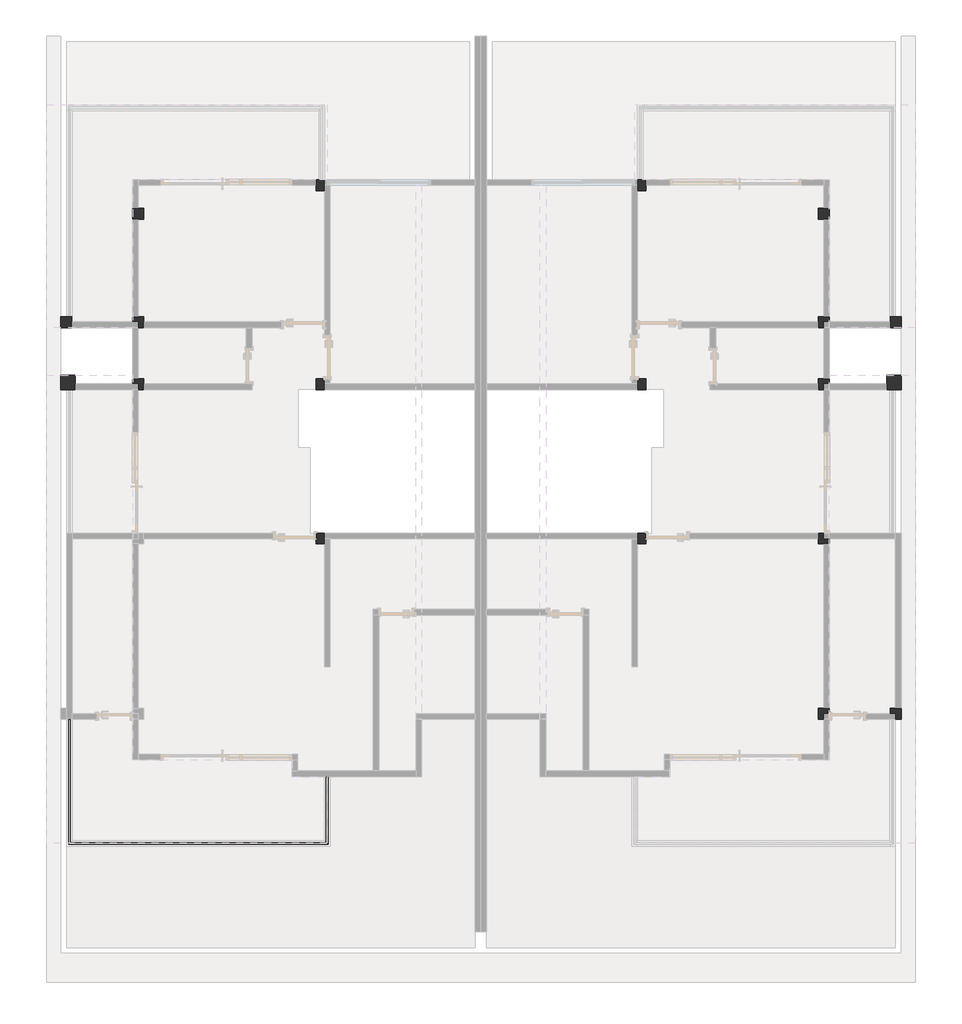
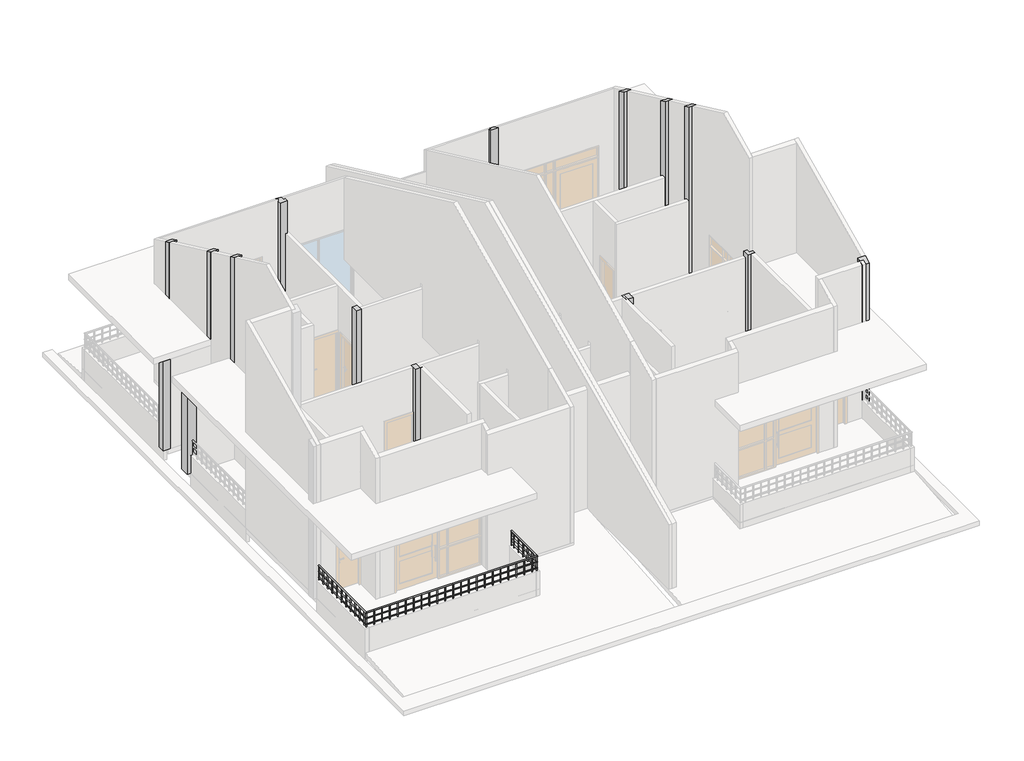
# One storey, part 3 of 6: 23 columns, 1 railing.
"""IFC4 building model written with IfcOpenShell, lengths in millimetres."""

import ifcopenshell
import ifcopenshell.guid

model = None  # the IFC model being written
_history = None  # IfcOwnerHistory: only IFC2X3 demands one
_inside = {}  # id of a spatial element -> (the spatial element, [elements in it])
_under = {}  # id of a project, library or spatial element -> (it, [spatial elements below it])
_declared = {}  # id of a project -> (the project, [libraries it declares])
_typed = {}  # id of a type object -> (the type object, [elements of that type])
_made_of = {}  # id of a material, layer set ... -> (it, [elements and type objects made of it])


def new_model(schema):
    """Start an empty IFC model of exactly this schema.

    Asked for "IFC4X3", IfcOpenShell would pick the latest addendum, in which some entities
    have other attributes; the version numbers below select the first issue.
    IFC2X3 requires an IfcOwnerHistory on every rooted entity: one is made here for all.
    """
    global model, _history
    if schema == "IFC4X3":
        model = ifcopenshell.file(schema_version=(4, 3, 0, 0))
    else:
        model = ifcopenshell.file(schema=schema)
    _inside.clear()
    _under.clear()
    _declared.clear()
    _typed.clear()
    _made_of.clear()
    _history = None
    if model.schema == "IFC2X3":
        org = make("IfcOrganization", Name="unknown")
        user = make(
            "IfcPersonAndOrganization",
            ThePerson=make("IfcPerson", FamilyName="unknown"),
            TheOrganization=org,
        )
        app = make(
            "IfcApplication",
            ApplicationDeveloper=org,
            Version="unknown",
            ApplicationFullName="unknown",
            ApplicationIdentifier="unknown",
        )
        _history = make(
            "IfcOwnerHistory",
            OwningUser=user,
            OwningApplication=app,
            ChangeAction="ADDED",
            CreationDate=0,
        )
    return model


def make(cls, **values):
    """One entity of the class cls with the attributes given. An attribute that is None is left unset."""
    return model.create_entity(
        cls, **{name: value for name, value in values.items() if value is not None}
    )


def rooted(cls, **values):
    """An entity with a GlobalId (a new one), such as an element, a storey or a relation."""
    return make(cls, GlobalId=ifcopenshell.guid.new(), OwnerHistory=_history, **values)


def si_unit(unit_type, name, prefix=None):
    """IfcSIUnit, for example si_unit("LENGTHUNIT", "METRE", prefix="MILLI")."""
    return make("IfcSIUnit", UnitType=unit_type, Prefix=prefix, Name=name)


def assignment(units):
    """IfcUnitAssignment: the units of a project."""
    return None if units is None else make("IfcUnitAssignment", Units=units)


def point(xyz):
    """IfcCartesianPoint."""
    return None if xyz is None else make("IfcCartesianPoint", Coordinates=xyz)


def direction(xyz):
    """IfcDirection."""
    return None if xyz is None else make("IfcDirection", DirectionRatios=xyz)


def frame(location, z_axis=None, x_axis=None):
    """IfcAxis2Placement3D, a coordinate frame: its origin and axes. An axis left out is left unset."""
    return make(
        "IfcAxis2Placement3D",
        Location=point(location),
        Axis=direction(z_axis),
        RefDirection=direction(x_axis),
    )


def frame_2d(location, x_axis=None):
    """IfcAxis2Placement2D, a coordinate frame in the plane: its origin and x axis."""
    return make(
        "IfcAxis2Placement2D", Location=point(location), RefDirection=direction(x_axis)
    )


def origin():
    """The frame at (0, 0, 0) with its axes left unset."""
    return frame((0.0, 0.0, 0.0))


def place(relative_to, where):
    """IfcLocalPlacement: puts the frame where relative to a parent placement (None: the world)."""
    return make(
        "IfcLocalPlacement", PlacementRelTo=relative_to, RelativePlacement=where
    )


def context(
    kind, dimensions, precision=None, world=None, true_north=None, identifier=None
):
    """IfcGeometricRepresentationContext, for example the 3D "Model" context."""
    return make(
        "IfcGeometricRepresentationContext",
        ContextIdentifier=identifier,
        ContextType=kind,
        CoordinateSpaceDimension=dimensions,
        Precision=precision,
        WorldCoordinateSystem=world,
        TrueNorth=true_north,
    )


def project(units=None, contexts=None):
    """IfcProject with its units and contexts."""
    return rooted(
        "IfcProject",
        Name="project",
        RepresentationContexts=contexts,
        UnitsInContext=assignment(units),
    )


def spatial(cls, under=None, at=None, **own):
    """A site, building, storey or space (cls), placed at a placement, below another one or the project."""
    s = rooted(cls, ObjectPlacement=at, **own)
    if under is not None:
        _under.setdefault(under.id(), (under, []))[1].append(s)
    return s


def polyline(points):
    """IfcPolyline through the points."""
    return make("IfcPolyline", Points=[point(p) for p in points])


def circle_curve(where, radius):
    """IfcCircle in the frame where."""
    return make("IfcCircle", Position=where, Radius=radius)


def ellipse_curve(where, semi_axis1, semi_axis2):
    """IfcEllipse in the frame where."""
    return make(
        "IfcEllipse", Position=where, SemiAxis1=semi_axis1, SemiAxis2=semi_axis2
    )


def trimmed(basis, trim1, trim2, sense, master):
    """IfcTrimmedCurve: the piece of a basis curve between two trims."""
    return make(
        "IfcTrimmedCurve",
        BasisCurve=basis,
        Trim1=trim1,
        Trim2=trim2,
        SenseAgreement=sense,
        MasterRepresentation=master,
    )


def segment(curve, same_sense, transition):
    """IfcCompositeCurveSegment."""
    return make(
        "IfcCompositeCurveSegment",
        Transition=transition,
        SameSense=same_sense,
        ParentCurve=curve,
    )


def composite_curve(segments, self_intersect=None):
    """IfcCompositeCurve: segments joined end to end."""
    return make("IfcCompositeCurve", Segments=segments, SelfIntersect=self_intersect)


def outline(outer, holes=None, kind="AREA"):
    """IfcArbitraryClosedProfileDef: a profile drawn as a closed curve; with holes, ...WithVoids."""
    if holes is None:
        return make("IfcArbitraryClosedProfileDef", ProfileType=kind, OuterCurve=outer)
    return make(
        "IfcArbitraryProfileDefWithVoids",
        ProfileType=kind,
        OuterCurve=outer,
        InnerCurves=holes,
    )


def extrude(swept, where, along, depth):
    """IfcExtrudedAreaSolid: the profile swept, set in the frame where, extruded along a direction by depth."""
    return make(
        "IfcExtrudedAreaSolid",
        SweptArea=swept,
        Position=where,
        ExtrudedDirection=direction(along),
        Depth=depth,
    )


def shape(context_of_items, identifier, shape_type, items):
    """IfcShapeRepresentation: the items that make up one representation, for example the "Body"."""
    return make(
        "IfcShapeRepresentation",
        ContextOfItems=context_of_items,
        RepresentationIdentifier=identifier,
        RepresentationType=shape_type,
        Items=items,
    )


def source(mapping_origin, context_of_items, identifier, shape_type, items):
    """IfcRepresentationMap: a shape defined once, which mapped items show again and again."""
    return make(
        "IfcRepresentationMap",
        MappingOrigin=mapping_origin,
        MappedRepresentation=shape(context_of_items, identifier, shape_type, items),
    )


def transform(
    local_origin,
    x_axis=None,
    y_axis=None,
    z_axis=None,
    scale=None,
    scale2=None,
    scale3=None,
    uniform=True,
):
    """IfcCartesianTransformationOperator3D, or its non-uniform kind. x_axis, y_axis, z_axis: its Axis1, 2, 3."""
    if uniform:
        return make(
            "IfcCartesianTransformationOperator3D",
            Axis1=direction(x_axis),
            Axis2=direction(y_axis),
            LocalOrigin=point(local_origin),
            Scale=scale,
            Axis3=direction(z_axis),
        )
    return make(
        "IfcCartesianTransformationOperator3DnonUniform",
        Axis1=direction(x_axis),
        Axis2=direction(y_axis),
        LocalOrigin=point(local_origin),
        Scale=scale,
        Axis3=direction(z_axis),
        Scale2=scale2,
        Scale3=scale3,
    )


def mapped(mapping_source, mapping_target):
    """IfcMappedItem: shows the shape of a source again, moved by a transform."""
    return make(
        "IfcMappedItem", MappingSource=mapping_source, MappingTarget=mapping_target
    )


def made_of(thing, what):
    """Note that an element or type object is made of a material, layer set ...; save() writes the relation."""
    if what is not None:
        _made_of.setdefault(what.id(), (what, []))[1].append(thing)
    return thing


def element(
    cls,
    number,
    at=None,
    inside=None,
    cuts=None,
    type_object=None,
    material=None,
    context=None,
    identifier="Body",
    shape_type=None,
    held_by="IfcProductDefinitionShape",
    body=None,
    shapes=None,
    **own,
):
    """One element of the class cls, such as IfcWall. Its Tag is "e" and its number.

    at: its placement. inside: the storey or other place that contains it. cuts: it is an
    opening in that element (IfcRelVoidsElement). A single representation is given by context,
    identifier, shape_type and body (its items); several are given by shapes. held_by: the class
    of the entity that holds the representations. save() writes the other relations.
    """
    e = rooted(cls, Tag="e%d" % number, ObjectPlacement=at, **own)
    if body is not None:
        shapes = [shape(context, identifier, shape_type, body)]
    if shapes is not None:
        e.Representation = make(held_by, Representations=shapes)
    if inside is not None:
        _inside.setdefault(inside.id(), (inside, []))[1].append(e)
    if cuts is not None:
        rooted(
            "IfcRelVoidsElement", RelatingBuildingElement=cuts, RelatedOpeningElement=e
        )
    if type_object is not None:
        _typed.setdefault(type_object.id(), (type_object, []))[1].append(e)
    return made_of(e, material)


def aggregate(whole, parts):
    """IfcRelAggregates: a whole, such as a stair, and the parts it consists of."""
    return rooted("IfcRelAggregates", RelatingObject=whole, RelatedObjects=parts)


def save(model, path):
    """Write the relations noted so far, then the file.

    IfcRelAggregates (storeys below a building ...), IfcRelContainedInSpatialStructure (elements
    in a storey), IfcRelDefinesByType, IfcRelAssociatesMaterial and IfcRelDeclares: one each for
    every whole, place, type object, material and project.
    """
    for whole, parts in _under.values():
        aggregate(whole, parts)
    for where, things in _inside.values():
        rooted(
            "IfcRelContainedInSpatialStructure",
            RelatedElements=things,
            RelatingStructure=where,
        )
    for kind, things in _typed.values():
        rooted("IfcRelDefinesByType", RelatedObjects=things, RelatingType=kind)
    for what, things in _made_of.values():
        rooted("IfcRelAssociatesMaterial", RelatedObjects=things, RelatingMaterial=what)
    for by, libraries in _declared.values():
        rooted("IfcRelDeclares", RelatingContext=by, RelatedDefinitions=libraries)
    model.write(path)


def plane_surface(at):
    """IfcPlane: the flat surface through the origin of the frame at, square to its z axis."""
    return make("IfcPlane", Position=at)


def cylinder_surface(at, radius):
    """IfcCylindricalSurface: all points at the distance radius from the z axis of the frame at."""
    return make("IfcCylindricalSurface", Position=at, Radius=radius)


def advanced_brep(points, edges, surfaces, faces):
    """IfcAdvancedBrep: a solid bounded by faces that lie on surfaces and meet in shared edges.

    An edge is (start, end): straight between two places in points (the first is 0);
    or (start, end, curve); or (start, end, curve, False) where it runs against its curve.
    A face is (place in surfaces, loops), or (place, loops, False) where it looks against
    its surface's normal. A loop lists edges by number (the first is 1), with a minus sign
    where the edge is run from its end to its start. The first loop is the outer one.
    """
    corners = [point(p) for p in points]
    vertices = [make("IfcVertexPoint", VertexGeometry=c) for c in corners]
    made = []
    for start, end, *more in edges:
        made.append(
            make(
                "IfcEdgeCurve",
                EdgeStart=vertices[start],
                EdgeEnd=vertices[end],
                EdgeGeometry=more[0] if more else make("IfcPolyline", Points=[corners[start], corners[end]]),
                SameSense=more[1] if len(more) > 1 else True,
            )
        )
    hull = []
    for where, loops, *sense in faces:
        bounds = []
        for j, loop in enumerate(loops):
            ring = [make("IfcOrientedEdge", EdgeElement=made[abs(k) - 1], Orientation=k > 0) for k in loop]
            bounds.append(
                make(
                    "IfcFaceOuterBound" if j == 0 else "IfcFaceBound",
                    Bound=make("IfcEdgeLoop", EdgeList=ring),
                    Orientation=True,
                )
            )
        hull.append(make("IfcAdvancedFace", Bounds=bounds, FaceSurface=surfaces[where], SameSense=sense[0] if sense else True))
    return make("IfcAdvancedBrep", Outer=make("IfcClosedShell", CfsFaces=hull))


def z2_a2c7232a(model_context):
    return source(origin(), model_context, "Body", "SweptSolid", [
        extrude(outline(polyline([(115.0, 115.0), (115.0, -115.0), (-115.0, -115.0), (-115.0, 115.0), (115.0, 115.0)])), frame((0.0, 0.0, 3900.0), z_axis=(0.0, 0.0, 1.0), x_axis=(1.0, 0.0, 0.0)), (0.0, 0.0, 1.0), 3750.0),
    ])


model = new_model("IFC4")

# Units and contexts
model_context = context("Model", 3, world=origin())
ifc_project = project(units=[si_unit("LENGTHUNIT", "METRE", prefix="MILLI")], contexts=[model_context])

# Site, building, storey
site = spatial("IfcSite", under=ifc_project)
building = spatial("IfcBuilding", under=site)
storey = spatial("IfcBuildingStorey", under=building, Name="标高 2", Elevation=3900.0)

# Columns
placement = place(None, origin())
element("IfcColumn", 1, ObjectType="混凝土 - 矩形 - 柱 : Z1", at=placement, inside=storey, context=model_context, shape_type="SweptSolid", body=[
    extrude(outline(polyline([(-7384.0293904, 9188.7732284), (-7384.0293904, 8888.7732284), (-7684.0293904, 8888.7732284), (-7684.0293904, 9188.7732284), (-7384.0293904, 9188.7732284)])), frame((0.0, 0.0, 3900.0), z_axis=(0.0, 0.0, 1.0), x_axis=(1.0, 0.0, 0.0)), (0.0, 0.0, 1.0), 3000.0),
])
element("IfcColumn", 2, ObjectType="混凝土 - 矩形 - 柱 : Z1", at=placement, inside=storey, context=model_context, shape_type="SweptSolid", body=[
    extrude(outline(polyline([(9615.9706096, 9188.7732284), (9915.9706096, 9188.7732284), (9915.9706096, 8888.7732284), (9615.9706096, 8888.7732284), (9615.9706096, 9188.7732284)])), frame((0.0, 0.0, 3900.0), z_axis=(0.0, 0.0, 1.0), x_axis=(1.0, 0.0, 0.0)), (0.0, 0.0, 1.0), 3000.0),
])
element("IfcColumn", 3, ObjectType="混凝土 - 矩形 - 柱 : Z2", at=placement, inside=storey, context=model_context, shape_type="SweptSolid", body=[
    extrude(outline(polyline([(1230.9706096, 2103.7732284), (1230.9706096, 1873.7732284), (1000.9706096, 1873.7732284), (1000.9706096, 2103.7732284), (1230.9706096, 2103.7732284)])), frame((0.0, 0.0, 3900.0), z_axis=(0.0, 0.0, 1.0), x_axis=(1.0, 0.0, 0.0)), (0.0, 0.0, 1.0), 3750.0),
])
element("IfcColumn", 4, ObjectType="混凝土 - 矩形 - 柱 : Z2", at=placement, inside=storey, context=model_context, shape_type="SweptSolid", body=[
    extrude(outline(polyline([(-2104.0293904, 5888.7732284), (-2104.0293904, 5658.7732284), (-2334.0293904, 5658.7732284), (-2334.0293904, 5888.7732284), (-2104.0293904, 5888.7732284)])), frame((0.0, 0.0, 3900.0), z_axis=(0.0, 0.0, 1.0), x_axis=(1.0, 0.0, 0.0)), (0.0, 0.0, 1.0), 3600.0),
])
element("IfcColumn", 5, ObjectType="混凝土 - 矩形 - 柱 : Z2", at=placement, inside=storey, context=model_context, shape_type="SweptSolid", body=[
    extrude(outline(polyline([(9118.7732284, 3900.0), (8888.7732284, 3900.0), (8888.7732284, 10640.9391892), (9118.7732284, 10533.6884279), (9118.7732284, 3900.0)])), frame((-6184.0293904, 0.0, 0.0), z_axis=(1.0, 0.0, 0.0), x_axis=(0.0, 1.0, 0.0)), (0.0, 0.0, 1.0), 230.0),
])
element("IfcColumn", 6, ObjectType="混凝土 - 矩形 - 柱 : Z2", at=placement, inside=storey, context=model_context, shape_type="SweptSolid", body=[
    extrude(outline(polyline([(-2104.0293904, 9118.7732284), (-2104.0293904, 8888.7732284), (-2334.0293904, 8888.7732284), (-2334.0293904, 9118.7732284), (-2104.0293904, 9118.7732284)])), frame((0.0, 0.0, 3900.0), z_axis=(0.0, 0.0, 1.0), x_axis=(1.0, 0.0, 0.0)), (0.0, 0.0, 1.0), 3600.0),
])
element("IfcColumn", 7, ObjectType="混凝土 - 矩形 - 柱 : Z2", at=placement, inside=storey, context=model_context, shape_type="SweptSolid", body=[
    extrude(outline(polyline([(-2104.0293904, 13288.7732284), (-2104.0293904, 13058.7732284), (-2334.0293904, 13058.7732284), (-2334.0293904, 13288.7732284), (-2104.0293904, 13288.7732284)])), frame((0.0, 0.0, 3900.0), z_axis=(0.0, 0.0, 1.0), x_axis=(1.0, 0.0, 0.0)), (0.0, 0.0, 1.0), 4689.1854934),
])
element("IfcColumn", 8, ObjectType="混凝土 - 矩形 - 柱 : Z2", at=placement, inside=storey, context=model_context, shape_type="SweptSolid", body=[
    extrude(outline(polyline([(1230.9706096, 13288.7732284), (1230.9706096, 13058.7732284), (1000.9706096, 13058.7732284), (1000.9706096, 13288.7732284), (1230.9706096, 13288.7732284)])), frame((0.0, 0.0, 3900.0), z_axis=(0.0, 0.0, 1.0), x_axis=(1.0, 0.0, 0.0)), (0.0, 0.0, 1.0), 3750.0),
])
element("IfcColumn", 9, ObjectType="混凝土 - 矩形 - 柱 : Z2", at=placement, inside=storey, context=model_context, shape_type="SweptSolid", body=[
    extrude(outline(polyline([(12688.7732284, 3900.0), (12458.7732284, 3900.0), (12458.7732284, 8976.2208496), (12688.7732284, 8868.9700883), (12688.7732284, 3900.0)])), frame((-6184.0293904, 0.0, 0.0), z_axis=(1.0, 0.0, 0.0), x_axis=(0.0, 1.0, 0.0)), (0.0, 0.0, 1.0), 230.0),
])
element("IfcColumn", 10, ObjectType="混凝土 - 矩形 - 柱 : Z2", at=placement, inside=storey, context=model_context, shape_type="SweptSolid", body=[
    extrude(outline(polyline([(8185.9706096, 2218.7732284), (8415.9706096, 2218.7732284), (8415.9706096, 1988.7732284), (8185.9706096, 1988.7732284), (8185.9706096, 2218.7732284)])), frame((0.0, 0.0, 3900.0), z_axis=(0.0, 0.0, 1.0), x_axis=(1.0, 0.0, 0.0)), (0.0, 0.0, 1.0), 3750.0),
])
element("IfcColumn", 11, ObjectType="混凝土 - 矩形 - 柱 : Z2", at=placement, inside=storey, context=model_context, shape_type="SweptSolid", body=[
    extrude(outline(polyline([(2218.7732284, 3900.0), (1988.7732284, 3900.0), (1988.7732284, 9008.8623857), (2218.7732284, 9116.1131471), (2218.7732284, 3900.0)])), frame((9685.9706096, 0.0, 0.0), z_axis=(1.0, 0.0, 0.0), x_axis=(0.0, 1.0, 0.0)), (0.0, 0.0, 1.0), 230.0),
])
element("IfcColumn", 12, ObjectType="混凝土 - 矩形 - 柱 : Z2", at=placement, inside=storey, context=model_context, shape_type="SweptSolid", body=[
    extrude(outline(polyline([(8185.9706096, 5888.7732284), (8415.9706096, 5888.7732284), (8415.9706096, 5658.7732284), (8185.9706096, 5658.7732284), (8185.9706096, 5888.7732284)])), frame((0.0, 0.0, 3900.0), z_axis=(0.0, 0.0, 1.0), x_axis=(1.0, 0.0, 0.0)), (0.0, 0.0, 1.0), 3750.0),
])
element("IfcColumn", 13, ObjectType="混凝土 - 矩形 - 柱 : Z2", at=placement, inside=storey, context=model_context, shape_type="SweptSolid", body=[
    extrude(outline(polyline([(4335.9706096, 5888.7732284), (4565.9706096, 5888.7732284), (4565.9706096, 5658.7732284), (4335.9706096, 5658.7732284), (4335.9706096, 5888.7732284)])), frame((0.0, 0.0, 3900.0), z_axis=(0.0, 0.0, 1.0), x_axis=(1.0, 0.0, 0.0)), (0.0, 0.0, 1.0), 3600.0),
])
element("IfcColumn", 14, ObjectType="混凝土 - 矩形 - 柱 : Z2", at=placement, inside=storey, context=model_context, shape_type="SweptSolid", body=[
    extrude(outline(polyline([(9118.7732284, 3900.0), (8888.7732284, 3900.0), (8888.7732284, 10640.9391892), (9118.7732284, 10533.6884279), (9118.7732284, 3900.0)])), frame((8185.9706096, 0.0, 0.0), z_axis=(1.0, 0.0, 0.0), x_axis=(0.0, 1.0, 0.0)), (0.0, 0.0, 1.0), 230.0),
])
element("IfcColumn", 15, ObjectType="混凝土 - 矩形 - 柱 : Z2", at=placement, inside=storey, context=model_context, shape_type="SweptSolid", body=[
    extrude(outline(polyline([(4335.9706096, 9118.7732284), (4565.9706096, 9118.7732284), (4565.9706096, 8888.7732284), (4335.9706096, 8888.7732284), (4335.9706096, 9118.7732284)])), frame((0.0, 0.0, 3900.0), z_axis=(0.0, 0.0, 1.0), x_axis=(1.0, 0.0, 0.0)), (0.0, 0.0, 1.0), 3600.0),
])
element("IfcColumn", 16, ObjectType="混凝土 - 矩形 - 柱 : Z2", at=placement, inside=storey, context=model_context, shape_type="SweptSolid", body=[
    extrude(outline(polyline([(13288.7732284, 3900.0), (13058.7732284, 3900.0), (13058.7732284, 8696.4362547), (13288.7732284, 8589.1854934), (13288.7732284, 3900.0)])), frame((4335.9706096, 0.0, 0.0), z_axis=(1.0, 0.0, 0.0), x_axis=(0.0, 1.0, 0.0)), (0.0, 0.0, 1.0), 230.0),
])
element("IfcColumn", 17, ObjectType="混凝土 - 矩形 - 柱 : Z2", at=placement, inside=storey, context=model_context, shape_type="SweptSolid", body=[
    extrude(outline(polyline([(12688.7732284, 3900.0), (12458.7732284, 3900.0), (12458.7732284, 8976.2208496), (12688.7732284, 8868.9700883), (12688.7732284, 3900.0)])), frame((8185.9706096, 0.0, 0.0), z_axis=(1.0, 0.0, 0.0), x_axis=(0.0, 1.0, 0.0)), (0.0, 0.0, 1.0), 230.0),
])
element("IfcColumn", 18, ObjectType="混凝土 - 矩形 - 柱 : Z2", at=placement, inside=storey, context=model_context, shape_type="SweptSolid", body=[
    extrude(outline(polyline([(10418.7732284, 3900.0), (10188.7732284, 3900.0), (10188.7732284, 10034.7392336), (10418.7732284, 9927.4884723), (10418.7732284, 3900.0)])), frame((-6184.0293904, 0.0, 0.0), z_axis=(1.0, 0.0, 0.0), x_axis=(0.0, 1.0, 0.0)), (0.0, 0.0, 1.0), 230.0),
])
element("IfcColumn", 19, ObjectType="混凝土 - 矩形 - 柱 : Z2", at=placement, inside=storey, context=model_context, shape_type="SweptSolid", body=[
    extrude(outline(polyline([(-7454.0293904, 10418.7732284), (-7454.0293904, 10188.7732284), (-7684.0293904, 10188.7732284), (-7684.0293904, 10418.7732284), (-7454.0293904, 10418.7732284)])), frame((0.0, 0.0, 3900.0), z_axis=(0.0, 0.0, 1.0), x_axis=(1.0, 0.0, 0.0)), (0.0, 0.0, 1.0), 3000.0),
])
element("IfcColumn", 20, ObjectType="混凝土 - 矩形 - 柱 : Z2", at=placement, inside=storey, context=model_context, shape_type="SweptSolid", body=[
    extrude(outline(polyline([(10418.7732284, 3900.0), (10188.7732284, 3900.0), (10188.7732284, 10034.7392336), (10418.7732284, 9927.4884723), (10418.7732284, 3900.0)])), frame((8185.9706096, 0.0, 0.0), z_axis=(1.0, 0.0, 0.0), x_axis=(0.0, 1.0, 0.0)), (0.0, 0.0, 1.0), 230.0),
])
element("IfcColumn", 21, ObjectType="混凝土 - 矩形 - 柱 : Z2", at=placement, inside=storey, context=model_context, shape_type="SweptSolid", body=[
    extrude(outline(polyline([(9685.9706096, 10418.7732284), (9915.9706096, 10418.7732284), (9915.9706096, 10188.7732284), (9685.9706096, 10188.7732284), (9685.9706096, 10418.7732284)])), frame((0.0, 0.0, 3900.0), z_axis=(0.0, 0.0, 1.0), x_axis=(1.0, 0.0, 0.0)), (0.0, 0.0, 1.0), 3000.0),
])
z2_shape = z2_a2c7232a(model_context)
element("IfcColumn", 22, ObjectType="混凝土 - 矩形 - 柱 : Z2", at=placement, inside=storey, context=model_context, shape_type="MappedRepresentation", body=[
    mapped(z2_shape, transform((1115.9706096, 5773.7732284, 0.0), x_axis=(1.0, 0.0, 0.0), y_axis=(0.0, 1.0, 0.0), z_axis=(0.0, 0.0, 1.0))),
])
element("IfcColumn", 23, ObjectType="混凝土 - 矩形 - 柱 : Z2", at=placement, inside=storey, context=model_context, shape_type="MappedRepresentation", body=[
    mapped(z2_shape, transform((1115.9706096, 9003.7732284, 0.0), x_axis=(1.0, 0.0, 0.0), y_axis=(0.0, 1.0, 0.0), z_axis=(0.0, 0.0, 1.0))),
])

# Railing
element("IfcRailing", 24, ObjectType="500 圆管", at=placement, inside=storey, context=model_context, shape_type="SolidModel", body=[
    advanced_brep(
    [(-7524.0293904, 1988.7732284, 4980.0), (-7484.0293904, 1988.7732284, 4980.0), (-7524.0293904, -631.2267716, 4980.0), (-7484.0293904, -591.2267716, 4980.0), (-2086.5293904, -631.2267716, 4980.0), (-2126.5293904, -591.2267716, 4980.0), (-2086.5293904, 788.7732284, 4980.0), (-2126.5293904, 788.7732284, 4980.0)],
    [
        (0, 1, circle_curve(frame((-7504.0293904, 1988.7732284, 4980.0), z_axis=(0.0, 1.0, 0.0), x_axis=(1.0, 0.0, 0.0)), 20.0)),
        (1, 0, circle_curve(frame((-7504.0293904, 1988.7732284, 4980.0), z_axis=(0.0, 1.0, 0.0), x_axis=(1.0, 0.0, 0.0)), 20.0)),
        (0, 2),
        (2, 3, ellipse_curve(frame((-7504.0293904, -611.2267716, 4980.0), z_axis=(-0.7071067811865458, 0.7071067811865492, 0.0), x_axis=(0.7071067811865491, 0.7071067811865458, 0.0)), 28.2842712, 20.0)),
        (3, 1),
        (3, 2, ellipse_curve(frame((-7504.0293904, -611.2267716, 4980.0), z_axis=(-0.7071067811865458, 0.7071067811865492, 0.0), x_axis=(0.7071067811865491, 0.7071067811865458, 0.0)), 28.2842712, 20.0)),
        (2, 4),
        (4, 5, ellipse_curve(frame((-2106.5293904, -611.2267716, 4980.0), z_axis=(-0.7071067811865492, -0.7071067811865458, 0.0), x_axis=(-0.7071067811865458, 0.7071067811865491, 0.0)), 28.2842712, 20.0)),
        (5, 3),
        (5, 4, ellipse_curve(frame((-2106.5293904, -611.2267716, 4980.0), z_axis=(-0.7071067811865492, -0.7071067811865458, 0.0), x_axis=(-0.7071067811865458, 0.7071067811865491, 0.0)), 28.2842712, 20.0)),
        (6, 7, circle_curve(frame((-2106.5293904, 788.7732284, 4980.0), z_axis=(0.0, 1.0, 0.0), x_axis=(-1.0, 0.0, 0.0)), 20.0)),
        (7, 6, circle_curve(frame((-2106.5293904, 788.7732284, 4980.0), z_axis=(0.0, 1.0, 0.0), x_axis=(-1.0, 0.0, 0.0)), 20.0)),
        (4, 6),
        (7, 5),
    ],
    [
        plane_surface(frame((-7504.0293904, 1988.7732284, 5000.0), z_axis=(0.0, 1.0, 0.0), x_axis=(0.0, 0.0, -1.0))),
        cylinder_surface(frame((-7504.0293904, 1988.7732284, 4980.0), z_axis=(0.0, 1.0, 0.0), x_axis=(1.0, 0.0, 0.0)), 20.0),
        cylinder_surface(frame((-7504.0293904, -611.2267716, 4980.0), z_axis=(-1.0, 0.0, 0.0), x_axis=(0.0, 1.0, 0.0)), 20.0),
        plane_surface(frame((-2106.5293904, 788.7732284, 5000.0), z_axis=(0.0, 1.0, 0.0), x_axis=(0.0, 0.0, 1.0))),
        cylinder_surface(frame((-2106.5293904, -611.2267716, 4980.0), z_axis=(0.0, -1.0, 0.0), x_axis=(-1.0, 0.0, 0.0)), 20.0),
    ],
    [
        (0, [[1, 2]]),
        (1, [[-1, 3, 4, 5]]),
        (1, [[-2, -5, 6, -3]]),
        (2, [[-4, 7, 8, 9]]),
        (2, [[-6, -9, 10, -7]]),
        (3, [[11, 12]]),
        (4, [[-8, 13, -12, 14]]),
        (4, [[-10, -14, -11, -13]]),
    ],
),
    advanced_brep(
    [(-7489.0293904, 1988.7732284, 4785.0), (-7519.0293904, 1988.7732284, 4785.0), (-7489.0293904, -596.2267716, 4785.0), (-7519.0293904, -626.2267716, 4785.0), (-2121.5293904, -596.2267716, 4785.0), (-2091.5293904, -626.2267716, 4785.0), (-2121.5293904, 788.7732284, 4785.0), (-2091.5293904, 788.7732284, 4785.0)],
    [
        (0, 1, circle_curve(frame((-7504.0293904, 1988.7732284, 4785.0), z_axis=(0.0, 1.0, 0.0), x_axis=(-1.0, 0.0, 0.0)), 15.0)),
        (1, 0, circle_curve(frame((-7504.0293904, 1988.7732284, 4785.0), z_axis=(0.0, 1.0, 0.0), x_axis=(-1.0, 0.0, 0.0)), 15.0)),
        (0, 2),
        (2, 3, ellipse_curve(frame((-7504.0293904, -611.2267716, 4785.0), z_axis=(-0.7071067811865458, 0.7071067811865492, 0.0), x_axis=(0.7071067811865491, 0.7071067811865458, 0.0)), 21.2132034, 15.0)),
        (3, 1),
        (3, 2, ellipse_curve(frame((-7504.0293904, -611.2267716, 4785.0), z_axis=(-0.7071067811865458, 0.7071067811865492, 0.0), x_axis=(0.7071067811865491, 0.7071067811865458, 0.0)), 21.2132034, 15.0)),
        (2, 4),
        (4, 5, ellipse_curve(frame((-2106.5293904, -611.2267716, 4785.0), z_axis=(-0.7071067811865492, -0.7071067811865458, 0.0), x_axis=(-0.7071067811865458, 0.7071067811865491, 0.0)), 21.2132034, 15.0)),
        (5, 3),
        (5, 4, ellipse_curve(frame((-2106.5293904, -611.2267716, 4785.0), z_axis=(-0.7071067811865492, -0.7071067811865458, 0.0), x_axis=(-0.7071067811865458, 0.7071067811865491, 0.0)), 21.2132034, 15.0)),
        (6, 7, circle_curve(frame((-2106.5293904, 788.7732284, 4785.0), z_axis=(0.0, 1.0, 0.0), x_axis=(1.0, 0.0, 0.0)), 15.0)),
        (7, 6, circle_curve(frame((-2106.5293904, 788.7732284, 4785.0), z_axis=(0.0, 1.0, 0.0), x_axis=(1.0, 0.0, 0.0)), 15.0)),
        (4, 6),
        (7, 5),
    ],
    [
        plane_surface(frame((-7504.0293904, 1988.7732284, 4800.0), z_axis=(0.0, 1.0, 0.0), x_axis=(0.0, 0.0, -1.0))),
        cylinder_surface(frame((-7504.0293904, 1988.7732284, 4785.0), z_axis=(0.0, 1.0, 0.0), x_axis=(-1.0, 0.0, 0.0)), 15.0),
        cylinder_surface(frame((-7504.0293904, -611.2267716, 4785.0), z_axis=(-1.0, 0.0, 0.0), x_axis=(0.0, -1.0, 0.0)), 15.0),
        plane_surface(frame((-2106.5293904, 788.7732284, 4800.0), z_axis=(0.0, 1.0, 0.0), x_axis=(0.0, 0.0, 1.0))),
        cylinder_surface(frame((-2106.5293904, -611.2267716, 4785.0), z_axis=(0.0, -1.0, 0.0), x_axis=(1.0, 0.0, 0.0)), 15.0),
    ],
    [
        (0, [[1, 2]]),
        (1, [[-1, 3, 4, 5]]),
        (1, [[-2, -5, 6, -3]]),
        (2, [[-4, 7, 8, 9]]),
        (2, [[-6, -9, 10, -7]]),
        (3, [[11, 12]]),
        (4, [[-8, 13, -12, 14]]),
        (4, [[-10, -14, -11, -13]]),
    ],
),
    advanced_brep(
    [(-7489.0293904, 1988.7732284, 4585.0), (-7519.0293904, 1988.7732284, 4585.0), (-7489.0293904, -596.2267716, 4585.0), (-7519.0293904, -626.2267716, 4585.0), (-2121.5293904, -596.2267716, 4585.0), (-2091.5293904, -626.2267716, 4585.0), (-2121.5293904, 788.7732284, 4585.0), (-2091.5293904, 788.7732284, 4585.0)],
    [
        (0, 1, circle_curve(frame((-7504.0293904, 1988.7732284, 4585.0), z_axis=(0.0, 1.0, 0.0), x_axis=(-1.0, 0.0, 0.0)), 15.0)),
        (1, 0, circle_curve(frame((-7504.0293904, 1988.7732284, 4585.0), z_axis=(0.0, 1.0, 0.0), x_axis=(-1.0, 0.0, 0.0)), 15.0)),
        (0, 2),
        (2, 3, ellipse_curve(frame((-7504.0293904, -611.2267716, 4585.0), z_axis=(-0.7071067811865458, 0.7071067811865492, 0.0), x_axis=(0.7071067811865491, 0.7071067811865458, 0.0)), 21.2132034, 15.0)),
        (3, 1),
        (3, 2, ellipse_curve(frame((-7504.0293904, -611.2267716, 4585.0), z_axis=(-0.7071067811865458, 0.7071067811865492, 0.0), x_axis=(0.7071067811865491, 0.7071067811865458, 0.0)), 21.2132034, 15.0)),
        (2, 4),
        (4, 5, ellipse_curve(frame((-2106.5293904, -611.2267716, 4585.0), z_axis=(-0.7071067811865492, -0.7071067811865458, 0.0), x_axis=(-0.7071067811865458, 0.7071067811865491, 0.0)), 21.2132034, 15.0)),
        (5, 3),
        (5, 4, ellipse_curve(frame((-2106.5293904, -611.2267716, 4585.0), z_axis=(-0.7071067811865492, -0.7071067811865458, 0.0), x_axis=(-0.7071067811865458, 0.7071067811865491, 0.0)), 21.2132034, 15.0)),
        (6, 7, circle_curve(frame((-2106.5293904, 788.7732284, 4585.0), z_axis=(0.0, 1.0, 0.0), x_axis=(1.0, 0.0, 0.0)), 15.0)),
        (7, 6, circle_curve(frame((-2106.5293904, 788.7732284, 4585.0), z_axis=(0.0, 1.0, 0.0), x_axis=(1.0, 0.0, 0.0)), 15.0)),
        (4, 6),
        (7, 5),
    ],
    [
        plane_surface(frame((-7504.0293904, 1988.7732284, 4600.0), z_axis=(0.0, 1.0, 0.0), x_axis=(0.0, 0.0, -1.0))),
        cylinder_surface(frame((-7504.0293904, 1988.7732284, 4585.0), z_axis=(0.0, 1.0, 0.0), x_axis=(-1.0, 0.0, 0.0)), 15.0),
        cylinder_surface(frame((-7504.0293904, -611.2267716, 4585.0), z_axis=(-1.0, 0.0, 0.0), x_axis=(0.0, -1.0, 0.0)), 15.0),
        plane_surface(frame((-2106.5293904, 788.7732284, 4600.0), z_axis=(0.0, 1.0, 0.0), x_axis=(0.0, 0.0, 1.0))),
        cylinder_surface(frame((-2106.5293904, -611.2267716, 4585.0), z_axis=(0.0, -1.0, 0.0), x_axis=(1.0, 0.0, 0.0)), 15.0),
    ],
    [
        (0, [[1, 2]]),
        (1, [[-1, 3, 4, 5]]),
        (1, [[-2, -5, 6, -3]]),
        (2, [[-4, 7, 8, 9]]),
        (2, [[-6, -9, 10, -7]]),
        (3, [[11, 12]]),
        (4, [[-8, 13, -12, 14]]),
        (4, [[-10, -14, -11, -13]]),
    ],
),
    extrude(outline(composite_curve([segment(trimmed(circle_curve(frame_2d((-2106.5293904, 638.7732284)), 12.5), [point((-2119.0293904, 638.7732284))], [point((-2094.0293904, 638.7732284))], False, "CARTESIAN"), True, "CONTINUOUS"), segment(trimmed(circle_curve(frame_2d((-2106.5293904, 638.7732284)), 12.5), [point((-2094.0293904, 638.7732284))], [point((-2119.0293904, 638.7732284))], False, "CARTESIAN"), True, "CONTINUOUS")], self_intersect=False)), frame((0.0, 0.0, 4500.0), z_axis=(0.0, 0.0, 1.0), x_axis=(1.0, 0.0, 0.0)), (0.0, 0.0, 1.0), 460.0),
    extrude(outline(composite_curve([segment(trimmed(circle_curve(frame_2d((-2106.5293904, 388.7732284)), 12.5), [point((-2119.0293904, 388.7732284))], [point((-2094.0293904, 388.7732284))], False, "CARTESIAN"), True, "CONTINUOUS"), segment(trimmed(circle_curve(frame_2d((-2106.5293904, 388.7732284)), 12.5), [point((-2094.0293904, 388.7732284))], [point((-2119.0293904, 388.7732284))], False, "CARTESIAN"), True, "CONTINUOUS")], self_intersect=False)), frame((0.0, 0.0, 4500.0), z_axis=(0.0, 0.0, 1.0), x_axis=(1.0, 0.0, 0.0)), (0.0, 0.0, 1.0), 460.0),
    extrude(outline(composite_curve([segment(trimmed(circle_curve(frame_2d((-2106.5293904, 138.7732284)), 12.5), [point((-2119.0293904, 138.7732284))], [point((-2094.0293904, 138.7732284))], False, "CARTESIAN"), True, "CONTINUOUS"), segment(trimmed(circle_curve(frame_2d((-2106.5293904, 138.7732284)), 12.5), [point((-2094.0293904, 138.7732284))], [point((-2119.0293904, 138.7732284))], False, "CARTESIAN"), True, "CONTINUOUS")], self_intersect=False)), frame((0.0, 0.0, 4500.0), z_axis=(0.0, 0.0, 1.0), x_axis=(1.0, 0.0, 0.0)), (0.0, 0.0, 1.0), 460.0),
    extrude(outline(composite_curve([segment(trimmed(circle_curve(frame_2d((-2106.5293904, -111.2267716)), 12.5), [point((-2119.0293904, -111.2267716))], [point((-2094.0293904, -111.2267716))], False, "CARTESIAN"), True, "CONTINUOUS"), segment(trimmed(circle_curve(frame_2d((-2106.5293904, -111.2267716)), 12.5), [point((-2094.0293904, -111.2267716))], [point((-2119.0293904, -111.2267716))], False, "CARTESIAN"), True, "CONTINUOUS")], self_intersect=False)), frame((0.0, 0.0, 4500.0), z_axis=(0.0, 0.0, 1.0), x_axis=(1.0, 0.0, 0.0)), (0.0, 0.0, 1.0), 460.0),
    extrude(outline(composite_curve([segment(trimmed(circle_curve(frame_2d((-2106.5293904, -361.2267716)), 12.5), [point((-2119.0293904, -361.2267716))], [point((-2094.0293904, -361.2267716))], False, "CARTESIAN"), True, "CONTINUOUS"), segment(trimmed(circle_curve(frame_2d((-2106.5293904, -361.2267716)), 12.5), [point((-2094.0293904, -361.2267716))], [point((-2119.0293904, -361.2267716))], False, "CARTESIAN"), True, "CONTINUOUS")], self_intersect=False)), frame((0.0, 0.0, 4500.0), z_axis=(0.0, 0.0, 1.0), x_axis=(1.0, 0.0, 0.0)), (0.0, 0.0, 1.0), 460.0),
    extrude(outline(composite_curve([segment(trimmed(circle_curve(frame_2d((-2254.0293904, -611.2267716)), 12.5), [point((-2254.0293904, -598.7267716))], [point((-2254.0293904, -623.7267716))], False, "CARTESIAN"), True, "CONTINUOUS"), segment(trimmed(circle_curve(frame_2d((-2254.0293904, -611.2267716)), 12.5), [point((-2254.0293904, -623.7267716))], [point((-2254.0293904, -598.7267716))], False, "CARTESIAN"), True, "CONTINUOUS")], self_intersect=False)), frame((0.0, 0.0, 4500.0), z_axis=(0.0, 0.0, 1.0), x_axis=(1.0, 0.0, 0.0)), (0.0, 0.0, 1.0), 460.0),
    extrude(outline(composite_curve([segment(trimmed(circle_curve(frame_2d((-2504.0293904, -611.2267716)), 12.5), [point((-2504.0293904, -598.7267716))], [point((-2504.0293904, -623.7267716))], False, "CARTESIAN"), True, "CONTINUOUS"), segment(trimmed(circle_curve(frame_2d((-2504.0293904, -611.2267716)), 12.5), [point((-2504.0293904, -623.7267716))], [point((-2504.0293904, -598.7267716))], False, "CARTESIAN"), True, "CONTINUOUS")], self_intersect=False)), frame((0.0, 0.0, 4500.0), z_axis=(0.0, 0.0, 1.0), x_axis=(1.0, 0.0, 0.0)), (0.0, 0.0, 1.0), 460.0),
    extrude(outline(composite_curve([segment(trimmed(circle_curve(frame_2d((-2754.0293904, -611.2267716)), 12.5), [point((-2754.0293904, -598.7267716))], [point((-2754.0293904, -623.7267716))], False, "CARTESIAN"), True, "CONTINUOUS"), segment(trimmed(circle_curve(frame_2d((-2754.0293904, -611.2267716)), 12.5), [point((-2754.0293904, -623.7267716))], [point((-2754.0293904, -598.7267716))], False, "CARTESIAN"), True, "CONTINUOUS")], self_intersect=False)), frame((0.0, 0.0, 4500.0), z_axis=(0.0, 0.0, 1.0), x_axis=(1.0, 0.0, 0.0)), (0.0, 0.0, 1.0), 460.0),
    extrude(outline(composite_curve([segment(trimmed(circle_curve(frame_2d((-3004.0293904, -611.2267716)), 12.5), [point((-3004.0293904, -598.7267716))], [point((-3004.0293904, -623.7267716))], False, "CARTESIAN"), True, "CONTINUOUS"), segment(trimmed(circle_curve(frame_2d((-3004.0293904, -611.2267716)), 12.5), [point((-3004.0293904, -623.7267716))], [point((-3004.0293904, -598.7267716))], False, "CARTESIAN"), True, "CONTINUOUS")], self_intersect=False)), frame((0.0, 0.0, 4500.0), z_axis=(0.0, 0.0, 1.0), x_axis=(1.0, 0.0, 0.0)), (0.0, 0.0, 1.0), 460.0),
    extrude(outline(composite_curve([segment(trimmed(circle_curve(frame_2d((-3254.0293904, -611.2267716)), 12.5), [point((-3254.0293904, -598.7267716))], [point((-3254.0293904, -623.7267716))], False, "CARTESIAN"), True, "CONTINUOUS"), segment(trimmed(circle_curve(frame_2d((-3254.0293904, -611.2267716)), 12.5), [point((-3254.0293904, -623.7267716))], [point((-3254.0293904, -598.7267716))], False, "CARTESIAN"), True, "CONTINUOUS")], self_intersect=False)), frame((0.0, 0.0, 4500.0), z_axis=(0.0, 0.0, 1.0), x_axis=(1.0, 0.0, 0.0)), (0.0, 0.0, 1.0), 460.0),
    extrude(outline(composite_curve([segment(trimmed(circle_curve(frame_2d((-3504.0293904, -611.2267716)), 12.5), [point((-3504.0293904, -598.7267716))], [point((-3504.0293904, -623.7267716))], False, "CARTESIAN"), True, "CONTINUOUS"), segment(trimmed(circle_curve(frame_2d((-3504.0293904, -611.2267716)), 12.5), [point((-3504.0293904, -623.7267716))], [point((-3504.0293904, -598.7267716))], False, "CARTESIAN"), True, "CONTINUOUS")], self_intersect=False)), frame((0.0, 0.0, 4500.0), z_axis=(0.0, 0.0, 1.0), x_axis=(1.0, 0.0, 0.0)), (0.0, 0.0, 1.0), 460.0),
    extrude(outline(composite_curve([segment(trimmed(circle_curve(frame_2d((-3754.0293904, -611.2267716)), 12.5), [point((-3754.0293904, -598.7267716))], [point((-3754.0293904, -623.7267716))], False, "CARTESIAN"), True, "CONTINUOUS"), segment(trimmed(circle_curve(frame_2d((-3754.0293904, -611.2267716)), 12.5), [point((-3754.0293904, -623.7267716))], [point((-3754.0293904, -598.7267716))], False, "CARTESIAN"), True, "CONTINUOUS")], self_intersect=False)), frame((0.0, 0.0, 4500.0), z_axis=(0.0, 0.0, 1.0), x_axis=(1.0, 0.0, 0.0)), (0.0, 0.0, 1.0), 460.0),
    extrude(outline(composite_curve([segment(trimmed(circle_curve(frame_2d((-4004.0293904, -611.2267716)), 12.5), [point((-4004.0293904, -598.7267716))], [point((-4004.0293904, -623.7267716))], False, "CARTESIAN"), True, "CONTINUOUS"), segment(trimmed(circle_curve(frame_2d((-4004.0293904, -611.2267716)), 12.5), [point((-4004.0293904, -623.7267716))], [point((-4004.0293904, -598.7267716))], False, "CARTESIAN"), True, "CONTINUOUS")], self_intersect=False)), frame((0.0, 0.0, 4500.0), z_axis=(0.0, 0.0, 1.0), x_axis=(1.0, 0.0, 0.0)), (0.0, 0.0, 1.0), 460.0),
    extrude(outline(composite_curve([segment(trimmed(circle_curve(frame_2d((-4254.0293904, -611.2267716)), 12.5), [point((-4254.0293904, -598.7267716))], [point((-4254.0293904, -623.7267716))], False, "CARTESIAN"), True, "CONTINUOUS"), segment(trimmed(circle_curve(frame_2d((-4254.0293904, -611.2267716)), 12.5), [point((-4254.0293904, -623.7267716))], [point((-4254.0293904, -598.7267716))], False, "CARTESIAN"), True, "CONTINUOUS")], self_intersect=False)), frame((0.0, 0.0, 4500.0), z_axis=(0.0, 0.0, 1.0), x_axis=(1.0, 0.0, 0.0)), (0.0, 0.0, 1.0), 460.0),
    extrude(outline(composite_curve([segment(trimmed(circle_curve(frame_2d((-4504.0293904, -611.2267716)), 12.5), [point((-4504.0293904, -598.7267716))], [point((-4504.0293904, -623.7267716))], False, "CARTESIAN"), True, "CONTINUOUS"), segment(trimmed(circle_curve(frame_2d((-4504.0293904, -611.2267716)), 12.5), [point((-4504.0293904, -623.7267716))], [point((-4504.0293904, -598.7267716))], False, "CARTESIAN"), True, "CONTINUOUS")], self_intersect=False)), frame((0.0, 0.0, 4500.0), z_axis=(0.0, 0.0, 1.0), x_axis=(1.0, 0.0, 0.0)), (0.0, 0.0, 1.0), 460.0),
    extrude(outline(composite_curve([segment(trimmed(circle_curve(frame_2d((-4754.0293904, -611.2267716)), 12.5), [point((-4754.0293904, -598.7267716))], [point((-4754.0293904, -623.7267716))], False, "CARTESIAN"), True, "CONTINUOUS"), segment(trimmed(circle_curve(frame_2d((-4754.0293904, -611.2267716)), 12.5), [point((-4754.0293904, -623.7267716))], [point((-4754.0293904, -598.7267716))], False, "CARTESIAN"), True, "CONTINUOUS")], self_intersect=False)), frame((0.0, 0.0, 4500.0), z_axis=(0.0, 0.0, 1.0), x_axis=(1.0, 0.0, 0.0)), (0.0, 0.0, 1.0), 460.0),
    extrude(outline(composite_curve([segment(trimmed(circle_curve(frame_2d((-5004.0293904, -611.2267716)), 12.5), [point((-5004.0293904, -598.7267716))], [point((-5004.0293904, -623.7267716))], False, "CARTESIAN"), True, "CONTINUOUS"), segment(trimmed(circle_curve(frame_2d((-5004.0293904, -611.2267716)), 12.5), [point((-5004.0293904, -623.7267716))], [point((-5004.0293904, -598.7267716))], False, "CARTESIAN"), True, "CONTINUOUS")], self_intersect=False)), frame((0.0, 0.0, 4500.0), z_axis=(0.0, 0.0, 1.0), x_axis=(1.0, 0.0, 0.0)), (0.0, 0.0, 1.0), 460.0),
    extrude(outline(composite_curve([segment(trimmed(circle_curve(frame_2d((-5254.0293904, -611.2267716)), 12.5), [point((-5254.0293904, -598.7267716))], [point((-5254.0293904, -623.7267716))], False, "CARTESIAN"), True, "CONTINUOUS"), segment(trimmed(circle_curve(frame_2d((-5254.0293904, -611.2267716)), 12.5), [point((-5254.0293904, -623.7267716))], [point((-5254.0293904, -598.7267716))], False, "CARTESIAN"), True, "CONTINUOUS")], self_intersect=False)), frame((0.0, 0.0, 4500.0), z_axis=(0.0, 0.0, 1.0), x_axis=(1.0, 0.0, 0.0)), (0.0, 0.0, 1.0), 460.0),
    extrude(outline(composite_curve([segment(trimmed(circle_curve(frame_2d((-5504.0293904, -611.2267716)), 12.5), [point((-5504.0293904, -598.7267716))], [point((-5504.0293904, -623.7267716))], False, "CARTESIAN"), True, "CONTINUOUS"), segment(trimmed(circle_curve(frame_2d((-5504.0293904, -611.2267716)), 12.5), [point((-5504.0293904, -623.7267716))], [point((-5504.0293904, -598.7267716))], False, "CARTESIAN"), True, "CONTINUOUS")], self_intersect=False)), frame((0.0, 0.0, 4500.0), z_axis=(0.0, 0.0, 1.0), x_axis=(1.0, 0.0, 0.0)), (0.0, 0.0, 1.0), 460.0),
    extrude(outline(composite_curve([segment(trimmed(circle_curve(frame_2d((-5754.0293904, -611.2267716)), 12.5), [point((-5754.0293904, -598.7267716))], [point((-5754.0293904, -623.7267716))], False, "CARTESIAN"), True, "CONTINUOUS"), segment(trimmed(circle_curve(frame_2d((-5754.0293904, -611.2267716)), 12.5), [point((-5754.0293904, -623.7267716))], [point((-5754.0293904, -598.7267716))], False, "CARTESIAN"), True, "CONTINUOUS")], self_intersect=False)), frame((0.0, 0.0, 4500.0), z_axis=(0.0, 0.0, 1.0), x_axis=(1.0, 0.0, 0.0)), (0.0, 0.0, 1.0), 460.0),
    extrude(outline(composite_curve([segment(trimmed(circle_curve(frame_2d((-6004.0293904, -611.2267716)), 12.5), [point((-6004.0293904, -598.7267716))], [point((-6004.0293904, -623.7267716))], False, "CARTESIAN"), True, "CONTINUOUS"), segment(trimmed(circle_curve(frame_2d((-6004.0293904, -611.2267716)), 12.5), [point((-6004.0293904, -623.7267716))], [point((-6004.0293904, -598.7267716))], False, "CARTESIAN"), True, "CONTINUOUS")], self_intersect=False)), frame((0.0, 0.0, 4500.0), z_axis=(0.0, 0.0, 1.0), x_axis=(1.0, 0.0, 0.0)), (0.0, 0.0, 1.0), 460.0),
    extrude(outline(composite_curve([segment(trimmed(circle_curve(frame_2d((-6254.0293904, -611.2267716)), 12.5), [point((-6254.0293904, -598.7267716))], [point((-6254.0293904, -623.7267716))], False, "CARTESIAN"), True, "CONTINUOUS"), segment(trimmed(circle_curve(frame_2d((-6254.0293904, -611.2267716)), 12.5), [point((-6254.0293904, -623.7267716))], [point((-6254.0293904, -598.7267716))], False, "CARTESIAN"), True, "CONTINUOUS")], self_intersect=False)), frame((0.0, 0.0, 4500.0), z_axis=(0.0, 0.0, 1.0), x_axis=(1.0, 0.0, 0.0)), (0.0, 0.0, 1.0), 460.0),
    extrude(outline(composite_curve([segment(trimmed(circle_curve(frame_2d((-6504.0293904, -611.2267716)), 12.5), [point((-6504.0293904, -598.7267716))], [point((-6504.0293904, -623.7267716))], False, "CARTESIAN"), True, "CONTINUOUS"), segment(trimmed(circle_curve(frame_2d((-6504.0293904, -611.2267716)), 12.5), [point((-6504.0293904, -623.7267716))], [point((-6504.0293904, -598.7267716))], False, "CARTESIAN"), True, "CONTINUOUS")], self_intersect=False)), frame((0.0, 0.0, 4500.0), z_axis=(0.0, 0.0, 1.0), x_axis=(1.0, 0.0, 0.0)), (0.0, 0.0, 1.0), 460.0),
    extrude(outline(composite_curve([segment(trimmed(circle_curve(frame_2d((-6754.0293904, -611.2267716)), 12.5), [point((-6754.0293904, -598.7267716))], [point((-6754.0293904, -623.7267716))], False, "CARTESIAN"), True, "CONTINUOUS"), segment(trimmed(circle_curve(frame_2d((-6754.0293904, -611.2267716)), 12.5), [point((-6754.0293904, -623.7267716))], [point((-6754.0293904, -598.7267716))], False, "CARTESIAN"), True, "CONTINUOUS")], self_intersect=False)), frame((0.0, 0.0, 4500.0), z_axis=(0.0, 0.0, 1.0), x_axis=(1.0, 0.0, 0.0)), (0.0, 0.0, 1.0), 460.0),
    extrude(outline(composite_curve([segment(trimmed(circle_curve(frame_2d((-7004.0293904, -611.2267716)), 12.5), [point((-7004.0293904, -598.7267716))], [point((-7004.0293904, -623.7267716))], False, "CARTESIAN"), True, "CONTINUOUS"), segment(trimmed(circle_curve(frame_2d((-7004.0293904, -611.2267716)), 12.5), [point((-7004.0293904, -623.7267716))], [point((-7004.0293904, -598.7267716))], False, "CARTESIAN"), True, "CONTINUOUS")], self_intersect=False)), frame((0.0, 0.0, 4500.0), z_axis=(0.0, 0.0, 1.0), x_axis=(1.0, 0.0, 0.0)), (0.0, 0.0, 1.0), 460.0),
    extrude(outline(composite_curve([segment(trimmed(circle_curve(frame_2d((-7254.0293904, -611.2267716)), 12.5), [point((-7254.0293904, -598.7267716))], [point((-7254.0293904, -623.7267716))], False, "CARTESIAN"), True, "CONTINUOUS"), segment(trimmed(circle_curve(frame_2d((-7254.0293904, -611.2267716)), 12.5), [point((-7254.0293904, -623.7267716))], [point((-7254.0293904, -598.7267716))], False, "CARTESIAN"), True, "CONTINUOUS")], self_intersect=False)), frame((0.0, 0.0, 4500.0), z_axis=(0.0, 0.0, 1.0), x_axis=(1.0, 0.0, 0.0)), (0.0, 0.0, 1.0), 460.0),
    extrude(outline(composite_curve([segment(trimmed(circle_curve(frame_2d((-7504.0293904, -511.2267716)), 12.5), [point((-7491.5293904, -511.2267716))], [point((-7516.5293904, -511.2267716))], False, "CARTESIAN"), True, "CONTINUOUS"), segment(trimmed(circle_curve(frame_2d((-7504.0293904, -511.2267716)), 12.5), [point((-7516.5293904, -511.2267716))], [point((-7491.5293904, -511.2267716))], False, "CARTESIAN"), True, "CONTINUOUS")], self_intersect=False)), frame((0.0, 0.0, 4500.0), z_axis=(0.0, 0.0, 1.0), x_axis=(1.0, 0.0, 0.0)), (0.0, 0.0, 1.0), 460.0),
    extrude(outline(composite_curve([segment(trimmed(circle_curve(frame_2d((-7504.0293904, -261.2267716)), 12.5), [point((-7491.5293904, -261.2267716))], [point((-7516.5293904, -261.2267716))], False, "CARTESIAN"), True, "CONTINUOUS"), segment(trimmed(circle_curve(frame_2d((-7504.0293904, -261.2267716)), 12.5), [point((-7516.5293904, -261.2267716))], [point((-7491.5293904, -261.2267716))], False, "CARTESIAN"), True, "CONTINUOUS")], self_intersect=False)), frame((0.0, 0.0, 4500.0), z_axis=(0.0, 0.0, 1.0), x_axis=(1.0, 0.0, 0.0)), (0.0, 0.0, 1.0), 460.0),
    extrude(outline(composite_curve([segment(trimmed(circle_curve(frame_2d((-7504.0293904, -11.2267716)), 12.5), [point((-7491.5293904, -11.2267716))], [point((-7516.5293904, -11.2267716))], False, "CARTESIAN"), True, "CONTINUOUS"), segment(trimmed(circle_curve(frame_2d((-7504.0293904, -11.2267716)), 12.5), [point((-7516.5293904, -11.2267716))], [point((-7491.5293904, -11.2267716))], False, "CARTESIAN"), True, "CONTINUOUS")], self_intersect=False)), frame((0.0, 0.0, 4500.0), z_axis=(0.0, 0.0, 1.0), x_axis=(1.0, 0.0, 0.0)), (0.0, 0.0, 1.0), 460.0),
    extrude(outline(composite_curve([segment(trimmed(circle_curve(frame_2d((-7504.0293904, 238.7732284)), 12.5), [point((-7491.5293904, 238.7732284))], [point((-7516.5293904, 238.7732284))], False, "CARTESIAN"), True, "CONTINUOUS"), segment(trimmed(circle_curve(frame_2d((-7504.0293904, 238.7732284)), 12.5), [point((-7516.5293904, 238.7732284))], [point((-7491.5293904, 238.7732284))], False, "CARTESIAN"), True, "CONTINUOUS")], self_intersect=False)), frame((0.0, 0.0, 4500.0), z_axis=(0.0, 0.0, 1.0), x_axis=(1.0, 0.0, 0.0)), (0.0, 0.0, 1.0), 460.0),
    extrude(outline(composite_curve([segment(trimmed(circle_curve(frame_2d((-7504.0293904, 488.7732284)), 12.5), [point((-7491.5293904, 488.7732284))], [point((-7516.5293904, 488.7732284))], False, "CARTESIAN"), True, "CONTINUOUS"), segment(trimmed(circle_curve(frame_2d((-7504.0293904, 488.7732284)), 12.5), [point((-7516.5293904, 488.7732284))], [point((-7491.5293904, 488.7732284))], False, "CARTESIAN"), True, "CONTINUOUS")], self_intersect=False)), frame((0.0, 0.0, 4500.0), z_axis=(0.0, 0.0, 1.0), x_axis=(1.0, 0.0, 0.0)), (0.0, 0.0, 1.0), 460.0),
    extrude(outline(composite_curve([segment(trimmed(circle_curve(frame_2d((-7504.0293904, 738.7732284)), 12.5), [point((-7491.5293904, 738.7732284))], [point((-7516.5293904, 738.7732284))], False, "CARTESIAN"), True, "CONTINUOUS"), segment(trimmed(circle_curve(frame_2d((-7504.0293904, 738.7732284)), 12.5), [point((-7516.5293904, 738.7732284))], [point((-7491.5293904, 738.7732284))], False, "CARTESIAN"), True, "CONTINUOUS")], self_intersect=False)), frame((0.0, 0.0, 4500.0), z_axis=(0.0, 0.0, 1.0), x_axis=(1.0, 0.0, 0.0)), (0.0, 0.0, 1.0), 460.0),
    extrude(outline(composite_curve([segment(trimmed(circle_curve(frame_2d((-7504.0293904, 988.7732284)), 12.5), [point((-7491.5293904, 988.7732284))], [point((-7516.5293904, 988.7732284))], False, "CARTESIAN"), True, "CONTINUOUS"), segment(trimmed(circle_curve(frame_2d((-7504.0293904, 988.7732284)), 12.5), [point((-7516.5293904, 988.7732284))], [point((-7491.5293904, 988.7732284))], False, "CARTESIAN"), True, "CONTINUOUS")], self_intersect=False)), frame((0.0, 0.0, 4500.0), z_axis=(0.0, 0.0, 1.0), x_axis=(1.0, 0.0, 0.0)), (0.0, 0.0, 1.0), 460.0),
    extrude(outline(composite_curve([segment(trimmed(circle_curve(frame_2d((-7504.0293904, 1238.7732284)), 12.5), [point((-7491.5293904, 1238.7732284))], [point((-7516.5293904, 1238.7732284))], False, "CARTESIAN"), True, "CONTINUOUS"), segment(trimmed(circle_curve(frame_2d((-7504.0293904, 1238.7732284)), 12.5), [point((-7516.5293904, 1238.7732284))], [point((-7491.5293904, 1238.7732284))], False, "CARTESIAN"), True, "CONTINUOUS")], self_intersect=False)), frame((0.0, 0.0, 4500.0), z_axis=(0.0, 0.0, 1.0), x_axis=(1.0, 0.0, 0.0)), (0.0, 0.0, 1.0), 460.0),
    extrude(outline(composite_curve([segment(trimmed(circle_curve(frame_2d((-7504.0293904, 1488.7732284)), 12.5), [point((-7491.5293904, 1488.7732284))], [point((-7516.5293904, 1488.7732284))], False, "CARTESIAN"), True, "CONTINUOUS"), segment(trimmed(circle_curve(frame_2d((-7504.0293904, 1488.7732284)), 12.5), [point((-7516.5293904, 1488.7732284))], [point((-7491.5293904, 1488.7732284))], False, "CARTESIAN"), True, "CONTINUOUS")], self_intersect=False)), frame((0.0, 0.0, 4500.0), z_axis=(0.0, 0.0, 1.0), x_axis=(1.0, 0.0, 0.0)), (0.0, 0.0, 1.0), 460.0),
    extrude(outline(composite_curve([segment(trimmed(circle_curve(frame_2d((-7504.0293904, 1738.7732284)), 12.5), [point((-7491.5293904, 1738.7732284))], [point((-7516.5293904, 1738.7732284))], False, "CARTESIAN"), True, "CONTINUOUS"), segment(trimmed(circle_curve(frame_2d((-7504.0293904, 1738.7732284)), 12.5), [point((-7516.5293904, 1738.7732284))], [point((-7491.5293904, 1738.7732284))], False, "CARTESIAN"), True, "CONTINUOUS")], self_intersect=False)), frame((0.0, 0.0, 4500.0), z_axis=(0.0, 0.0, 1.0), x_axis=(1.0, 0.0, 0.0)), (0.0, 0.0, 1.0), 460.0),
    extrude(outline(composite_curve([segment(trimmed(circle_curve(frame_2d((-2106.5293904, -611.2267716)), 12.5), [point((-2106.5293904, -598.7267716))], [point((-2106.5293904, -623.7267716))], False, "CARTESIAN"), True, "CONTINUOUS"), segment(trimmed(circle_curve(frame_2d((-2106.5293904, -611.2267716)), 12.5), [point((-2106.5293904, -623.7267716))], [point((-2106.5293904, -598.7267716))], False, "CARTESIAN"), True, "CONTINUOUS")], self_intersect=False)), frame((0.0, 0.0, 4500.0), z_axis=(0.0, 0.0, 1.0), x_axis=(1.0, 0.0, 0.0)), (0.0, 0.0, 1.0), 460.0),
    extrude(outline(composite_curve([segment(trimmed(circle_curve(frame_2d((-7504.0293904, -611.2267716)), 12.5), [point((-7491.5293904, -611.2267716))], [point((-7516.5293904, -611.2267716))], False, "CARTESIAN"), True, "CONTINUOUS"), segment(trimmed(circle_curve(frame_2d((-7504.0293904, -611.2267716)), 12.5), [point((-7516.5293904, -611.2267716))], [point((-7491.5293904, -611.2267716))], False, "CARTESIAN"), True, "CONTINUOUS")], self_intersect=False)), frame((0.0, 0.0, 4500.0), z_axis=(0.0, 0.0, 1.0), x_axis=(1.0, 0.0, 0.0)), (0.0, 0.0, 1.0), 460.0),
    extrude(outline(composite_curve([segment(trimmed(circle_curve(frame_2d((-2106.5293904, 776.2732284)), 12.5), [point((-2119.0293904, 776.2732284))], [point((-2094.0293904, 776.2732284))], False, "CARTESIAN"), True, "CONTINUOUS"), segment(trimmed(circle_curve(frame_2d((-2106.5293904, 776.2732284)), 12.5), [point((-2094.0293904, 776.2732284))], [point((-2119.0293904, 776.2732284))], False, "CARTESIAN"), True, "CONTINUOUS")], self_intersect=False)), frame((0.0, 0.0, 4500.0), z_axis=(0.0, 0.0, 1.0), x_axis=(1.0, 0.0, 0.0)), (0.0, 0.0, 1.0), 460.0),
    extrude(outline(composite_curve([segment(trimmed(circle_curve(frame_2d((-7504.0293904, 1976.2732284)), 12.5), [point((-7491.5293904, 1976.2732284))], [point((-7516.5293904, 1976.2732284))], False, "CARTESIAN"), True, "CONTINUOUS"), segment(trimmed(circle_curve(frame_2d((-7504.0293904, 1976.2732284)), 12.5), [point((-7516.5293904, 1976.2732284))], [point((-7491.5293904, 1976.2732284))], False, "CARTESIAN"), True, "CONTINUOUS")], self_intersect=False)), frame((0.0, 0.0, 4500.0), z_axis=(0.0, 0.0, 1.0), x_axis=(1.0, 0.0, 0.0)), (0.0, 0.0, 1.0), 460.0),
])

save(model, "model.ifc")
